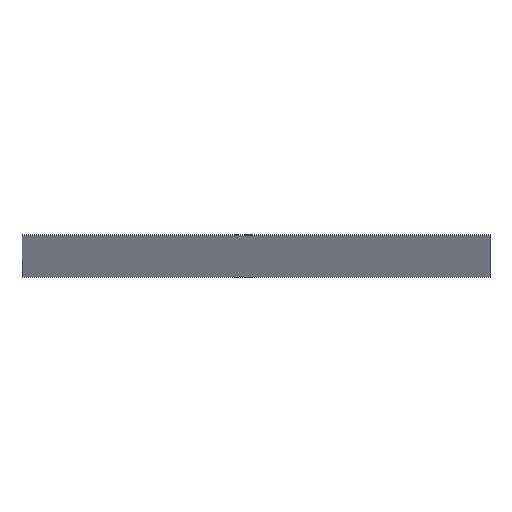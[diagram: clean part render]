
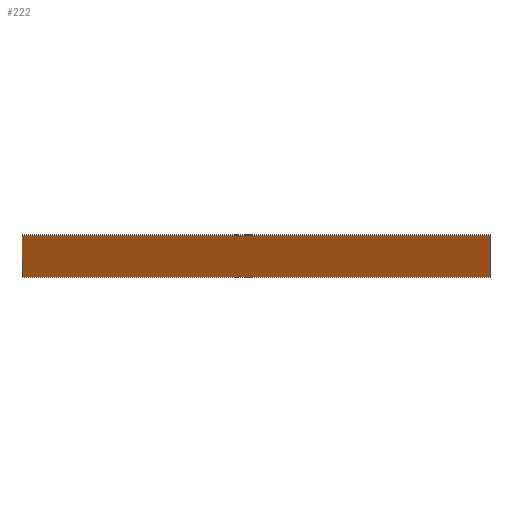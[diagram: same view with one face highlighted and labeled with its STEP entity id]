
A CAD part, front view. The second image highlights one B-rep face of the part: STEP entity #222.
In plain terms, the highlighted planar face has unit normal (0, -0.906, -0.423).
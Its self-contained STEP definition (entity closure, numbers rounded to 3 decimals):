
#62 = PLANE('',#63);
#63 = AXIS2_PLACEMENT_3D('',#64,#65,#66);
#64 = CARTESIAN_POINT('',(126.,159.931,10.575));
#65 = DIRECTION('',(1.,0.,0.));
#66 = DIRECTION('',(0.,-0.466,0.885));
#88 = PLANE('',#89);
#89 = AXIS2_PLACEMENT_3D('',#90,#91,#92);
#90 = CARTESIAN_POINT('',(0.15,154.733,21.723));
#91 = DIRECTION('',(0.,0.423,-0.906));
#92 = DIRECTION('',(0.,-0.906,-0.423));
#115 = PLANE('',#116);
#116 = AXIS2_PLACEMENT_3D('',#117,#118,#119);
#117 = CARTESIAN_POINT('',(0.15,159.931,10.575));
#118 = DIRECTION('',(1.,0.,0.));
#119 = DIRECTION('',(0.,-0.466,0.885));
#139 = PLANE('',#140);
#140 = AXIS2_PLACEMENT_3D('',#141,#142,#143);
#141 = CARTESIAN_POINT('',(0.15,159.388,10.322));
#142 = DIRECTION('',(0.,-0.423,0.906));
#143 = DIRECTION('',(0.,0.906,0.423));
#154 = VERTEX_POINT('',#155);
#155 = CARTESIAN_POINT('',(126.,154.189,21.469));
#176 = EDGE_CURVE('',#154,#177,#179,.T.);
#177 = VERTEX_POINT('',#178);
#178 = CARTESIAN_POINT('',(0.15,154.189,21.469));
#179 = SURFACE_CURVE('',#180,(#183,#189),.PCURVE_S1.);
#180 = B_SPLINE_CURVE_WITH_KNOTS('',1,(#181,#182),.UNSPECIFIED.,.F.,.F.,
  (2,2),(0.,1.),.PIECEWISE_BEZIER_KNOTS.);
#181 = CARTESIAN_POINT('',(126.,154.189,21.469));
#182 = CARTESIAN_POINT('',(0.15,154.189,21.469));
#183 = PCURVE('',#88,#184);
#184 = DEFINITIONAL_REPRESENTATION('',(#185),#188);
#185 = B_SPLINE_CURVE_WITH_KNOTS('',1,(#186,#187),.UNSPECIFIED.,.F.,.F.,
  (2,2),(0.,1.),.PIECEWISE_BEZIER_KNOTS.);
#186 = CARTESIAN_POINT('',(0.6,-125.85));
#187 = CARTESIAN_POINT('',(0.6,0.));
#188 = ( GEOMETRIC_REPRESENTATION_CONTEXT(2) 
PARAMETRIC_REPRESENTATION_CONTEXT() REPRESENTATION_CONTEXT('2D SPACE',''
  ) );
#189 = PCURVE('',#190,#195);
#190 = PLANE('',#191);
#191 = AXIS2_PLACEMENT_3D('',#192,#193,#194);
#192 = CARTESIAN_POINT('',(0.15,154.189,21.469));
#193 = DIRECTION('',(0.,0.906,0.423));
#194 = DIRECTION('',(0.,0.423,-0.906));
#195 = DEFINITIONAL_REPRESENTATION('',(#196),#199);
#196 = B_SPLINE_CURVE_WITH_KNOTS('',1,(#197,#198),.UNSPECIFIED.,.F.,.F.,
  (2,2),(0.,1.),.PIECEWISE_BEZIER_KNOTS.);
#197 = CARTESIAN_POINT('',(0.,-125.85));
#198 = CARTESIAN_POINT('',(0.,0.));
#199 = ( GEOMETRIC_REPRESENTATION_CONTEXT(2) 
PARAMETRIC_REPRESENTATION_CONTEXT() REPRESENTATION_CONTEXT('2D SPACE',''
  ) );
#222 = ADVANCED_FACE('',(#223),#190,.F.);
#223 = FACE_BOUND('',#224,.F.);
#224 = EDGE_LOOP('',(#225,#248,#268,#289));
#225 = ORIENTED_EDGE('',*,*,#226,.T.);
#226 = EDGE_CURVE('',#154,#227,#229,.T.);
#227 = VERTEX_POINT('',#228);
#228 = CARTESIAN_POINT('',(126.,159.388,10.322));
#229 = SURFACE_CURVE('',#230,(#234,#241),.PCURVE_S1.);
#230 = LINE('',#231,#232);
#231 = CARTESIAN_POINT('',(126.,154.189,21.469));
#232 = VECTOR('',#233,1.);
#233 = DIRECTION('',(0.,0.423,-0.906));
#234 = PCURVE('',#190,#235);
#235 = DEFINITIONAL_REPRESENTATION('',(#236),#240);
#236 = LINE('',#237,#238);
#237 = CARTESIAN_POINT('',(0.,-125.85));
#238 = VECTOR('',#239,1.);
#239 = DIRECTION('',(1.,0.));
#240 = ( GEOMETRIC_REPRESENTATION_CONTEXT(2) 
PARAMETRIC_REPRESENTATION_CONTEXT() REPRESENTATION_CONTEXT('2D SPACE',''
  ) );
#241 = PCURVE('',#62,#242);
#242 = DEFINITIONAL_REPRESENTATION('',(#243),#247);
#243 = LINE('',#244,#245);
#244 = CARTESIAN_POINT('',(12.315,0.));
#245 = VECTOR('',#246,1.);
#246 = DIRECTION('',(-0.999,0.049));
#247 = ( GEOMETRIC_REPRESENTATION_CONTEXT(2) 
PARAMETRIC_REPRESENTATION_CONTEXT() REPRESENTATION_CONTEXT('2D SPACE',''
  ) );
#248 = ORIENTED_EDGE('',*,*,#249,.T.);
#249 = EDGE_CURVE('',#227,#250,#252,.T.);
#250 = VERTEX_POINT('',#251);
#251 = CARTESIAN_POINT('',(0.15,159.388,10.322));
#252 = SURFACE_CURVE('',#253,(#256,#262),.PCURVE_S1.);
#253 = B_SPLINE_CURVE_WITH_KNOTS('',1,(#254,#255),.UNSPECIFIED.,.F.,.F.,
  (2,2),(0.,1.),.PIECEWISE_BEZIER_KNOTS.);
#254 = CARTESIAN_POINT('',(126.,159.388,10.322));
#255 = CARTESIAN_POINT('',(0.15,159.388,10.322));
#256 = PCURVE('',#190,#257);
#257 = DEFINITIONAL_REPRESENTATION('',(#258),#261);
#258 = B_SPLINE_CURVE_WITH_KNOTS('',1,(#259,#260),.UNSPECIFIED.,.F.,.F.,
  (2,2),(0.,1.),.PIECEWISE_BEZIER_KNOTS.);
#259 = CARTESIAN_POINT('',(12.3,-125.85));
#260 = CARTESIAN_POINT('',(12.3,0.));
#261 = ( GEOMETRIC_REPRESENTATION_CONTEXT(2) 
PARAMETRIC_REPRESENTATION_CONTEXT() REPRESENTATION_CONTEXT('2D SPACE',''
  ) );
#262 = PCURVE('',#139,#263);
#263 = DEFINITIONAL_REPRESENTATION('',(#264),#267);
#264 = B_SPLINE_CURVE_WITH_KNOTS('',1,(#265,#266),.UNSPECIFIED.,.F.,.F.,
  (2,2),(0.,1.),.PIECEWISE_BEZIER_KNOTS.);
#265 = CARTESIAN_POINT('',(0.,-125.85));
#266 = CARTESIAN_POINT('',(0.,0.));
#267 = ( GEOMETRIC_REPRESENTATION_CONTEXT(2) 
PARAMETRIC_REPRESENTATION_CONTEXT() REPRESENTATION_CONTEXT('2D SPACE',''
  ) );
#268 = ORIENTED_EDGE('',*,*,#269,.F.);
#269 = EDGE_CURVE('',#177,#250,#270,.T.);
#270 = SURFACE_CURVE('',#271,(#275,#282),.PCURVE_S1.);
#271 = LINE('',#272,#273);
#272 = CARTESIAN_POINT('',(0.15,154.189,21.469));
#273 = VECTOR('',#274,1.);
#274 = DIRECTION('',(0.,0.423,-0.906));
#275 = PCURVE('',#190,#276);
#276 = DEFINITIONAL_REPRESENTATION('',(#277),#281);
#277 = LINE('',#278,#279);
#278 = CARTESIAN_POINT('',(0.,0.));
#279 = VECTOR('',#280,1.);
#280 = DIRECTION('',(1.,0.));
#281 = ( GEOMETRIC_REPRESENTATION_CONTEXT(2) 
PARAMETRIC_REPRESENTATION_CONTEXT() REPRESENTATION_CONTEXT('2D SPACE',''
  ) );
#282 = PCURVE('',#115,#283);
#283 = DEFINITIONAL_REPRESENTATION('',(#284),#288);
#284 = LINE('',#285,#286);
#285 = CARTESIAN_POINT('',(12.315,0.));
#286 = VECTOR('',#287,1.);
#287 = DIRECTION('',(-0.999,0.049));
#288 = ( GEOMETRIC_REPRESENTATION_CONTEXT(2) 
PARAMETRIC_REPRESENTATION_CONTEXT() REPRESENTATION_CONTEXT('2D SPACE',''
  ) );
#289 = ORIENTED_EDGE('',*,*,#176,.F.);
